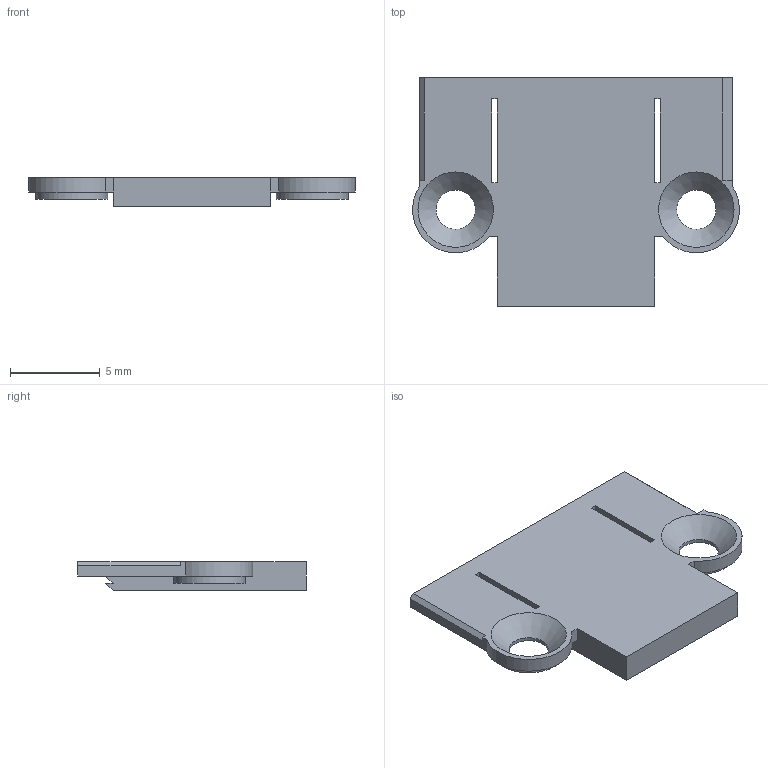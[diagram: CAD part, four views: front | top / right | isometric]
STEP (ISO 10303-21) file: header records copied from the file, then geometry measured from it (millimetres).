
FILE_DESCRIPTION(('Open CASCADE Model'),'2;1');
FILE_NAME('Open CASCADE Shape Model','2026-10-20T02:15:36',('Author'),( 'Open CASCADE'),'Open CASCADE STEP processor 7.9','Open CASCADE 7.9' ,'Unknown');
FILE_SCHEMA(('AUTOMOTIVE_DESIGN { 1 0 10303 214 1 1 1 1 }'));
Length unit declared in the file: millimetre
Products named in the file (1): Open CASCADE STEP translator 7.9 1
Bounding box: 18.19 x 12.73 x 1.6 mm (x, y, z)
Volume: 220 mm3; surface area: 490 mm2
Topology: 1 solids, 1 shells, 37 faces, 101 edges, 66 vertices
Faces by surface type: plane 29, cylinder 6, cone 2
Full cylindrical faces by diameter (mm): 2.2 x2, 4 x2
Entity records: 2477 total; most frequent: CARTESIAN_POINT 453, DIRECTION 362, LINE 249, VECTOR 249, ORIENTED_EDGE 202, PCURVE 202, DEFINITIONAL_REPRESENTATION 202, EDGE_CURVE 101
